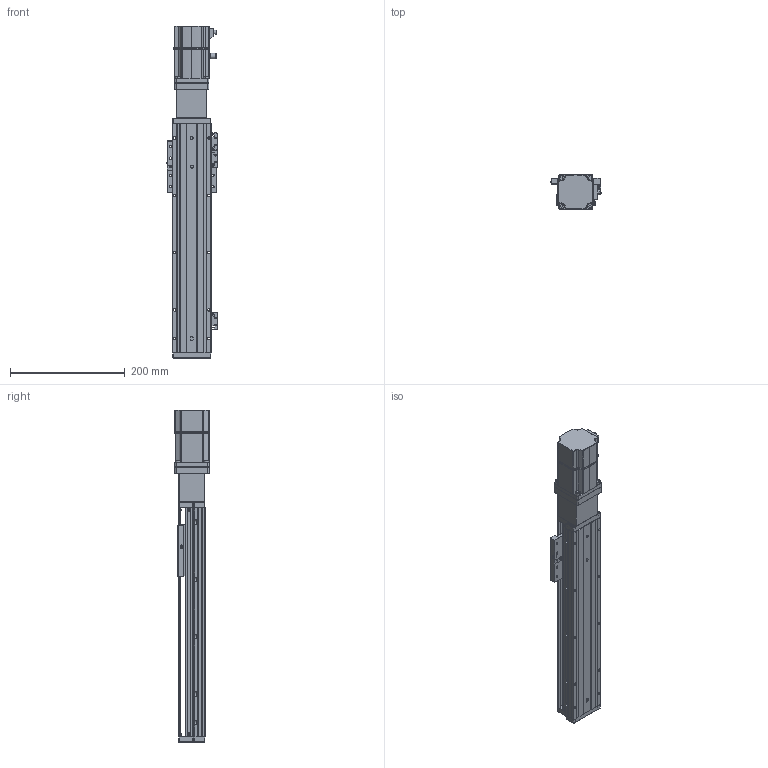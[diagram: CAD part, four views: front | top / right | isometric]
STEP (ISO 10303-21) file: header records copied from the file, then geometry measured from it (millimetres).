
FILE_DESCRIPTION (( 'STEP AP203' ), '1' );
FILE_NAME ('KTHAL60-250-BC-M20-C4L.step', '2022-12-16T01:57:48', ( '微软用户' ), ( '微软中国' ), 'SwSTEP 2.0', 'SolidWorks 2020', '' );
FILE_SCHEMA (( 'CONFIG_CONTROL_DESIGN' ));
Length unit declared in the file: millimetre
Products named in the file (18): CTHA60-017; CTHA60-013; KTHLA60-002; CTHA60-021; CTHA60-006-3_M20B; KTHA60-004; GBT 70.1-M4×16; _X2_4E0983F1_X0_200W_1; KTHA60-005; GBT77-2000M3-3; KTHAL60-250-BC-M20-C4L; GB¨uT 70.2-M3¡Á5_M3¡Á6; GBT 70.1-M3℅6; GBT 70.3-M3℅6; CTHA60-016; EE_SX911P_R; CTHA60-027; KTHA60-001_400
Assembly tree (48 placements, depth 2):
  KTHAL60-250-BC-M20-C4L
    KTHA60-001_400
    KTHLA60-002
    KTHA60-004
    KTHA60-005
    GB¨uT 70.2-M3¡Á5_M3¡Á6  x5
    GBT 70.3-M3℅6  x6
    EE_SX911P_R  x3
    CTHA60-017  x3
    CTHA60-021  x2
    GBT 70.1-M4×16  x8
    GBT77-2000M3-3  x6
    GBT 70.1-M3℅6  x6
    CTHA60-016
    CTHA60-027
    CTHA60-013
    CTHA60-006-3_M20B
    _X2_4E0983F1_X0_200W_1
Bounding box: 87.82 x 62.42 x 579.7 mm (x, y, z)
Volume: 1259748.6 mm3; surface area: 291453.9 mm2
Topology: 51 solids, 51 shells, 2266 faces, 5355 edges, 3277 vertices
Faces by surface type: plane 1225, cylinder 591, cone 289, torus 78, bspline 69, sphere 14
Entity records: 40481 total; most frequent: CARTESIAN_POINT 7830, DIRECTION 6348, ORIENTED_EDGE 6106, EDGE_CURVE 3053, AXIS2_PLACEMENT_3D 2187, LINE 1974, VECTOR 1974, VERTEX_POINT 1899
